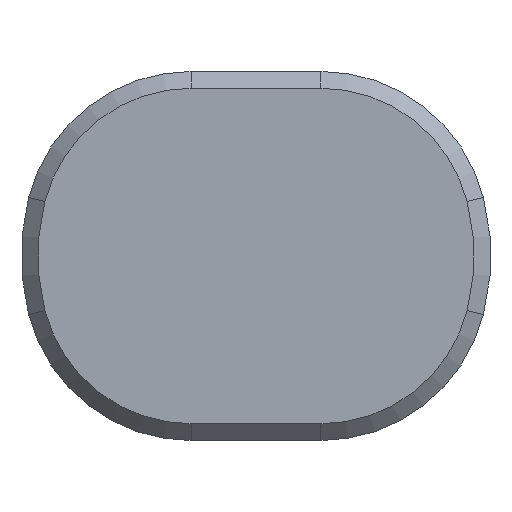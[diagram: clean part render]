
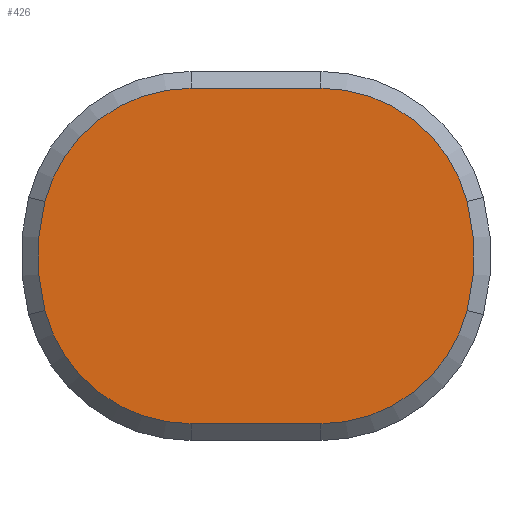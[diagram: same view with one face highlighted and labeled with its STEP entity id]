
A CAD part, left-side view. The second image highlights one B-rep face of the part: STEP entity #426.
In plain terms, the highlighted planar face has unit normal (-1, 0, 0).
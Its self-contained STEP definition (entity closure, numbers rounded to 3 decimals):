
#41=CIRCLE('',#470,4.5);
#42=CIRCLE('',#471,6.5);
#43=CIRCLE('',#472,4.5);
#44=CIRCLE('',#473,4.5);
#45=CIRCLE('',#474,6.5);
#46=CIRCLE('',#475,4.5);
#69=ORIENTED_EDGE('',*,*,#189,.T.);
#70=ORIENTED_EDGE('',*,*,#190,.T.);
#71=ORIENTED_EDGE('',*,*,#191,.F.);
#72=ORIENTED_EDGE('',*,*,#192,.T.);
#73=ORIENTED_EDGE('',*,*,#193,.T.);
#74=ORIENTED_EDGE('',*,*,#194,.T.);
#75=ORIENTED_EDGE('',*,*,#195,.F.);
#76=ORIENTED_EDGE('',*,*,#196,.T.);
#189=EDGE_CURVE('',#249,#250,#285,.T.);
#190=EDGE_CURVE('',#250,#251,#41,.F.);
#191=EDGE_CURVE('',#252,#251,#42,.T.);
#192=EDGE_CURVE('',#252,#253,#43,.F.);
#193=EDGE_CURVE('',#253,#254,#286,.T.);
#194=EDGE_CURVE('',#254,#255,#44,.F.);
#195=EDGE_CURVE('',#256,#255,#45,.T.);
#196=EDGE_CURVE('',#256,#249,#46,.F.);
#249=VERTEX_POINT('',#680);
#250=VERTEX_POINT('',#681);
#251=VERTEX_POINT('',#683);
#252=VERTEX_POINT('',#685);
#253=VERTEX_POINT('',#687);
#254=VERTEX_POINT('',#689);
#255=VERTEX_POINT('',#691);
#256=VERTEX_POINT('',#693);
#285=LINE('',#679,#317);
#286=LINE('',#688,#318);
#317=VECTOR('',#531,1000.);
#318=VECTOR('',#538,1000.);
#349=EDGE_LOOP('',(#69,#70,#71,#72,#73,#74,#75,#76));
#383=FACE_BOUND('',#349,.T.);
#417=PLANE('',#469);
#426=ADVANCED_FACE('',(#383),#417,.F.);
#469=AXIS2_PLACEMENT_3D('',#678,#529,#530);
#470=AXIS2_PLACEMENT_3D('',#682,#532,#533);
#471=AXIS2_PLACEMENT_3D('',#684,#534,#535);
#472=AXIS2_PLACEMENT_3D('',#686,#536,#537);
#473=AXIS2_PLACEMENT_3D('',#690,#539,#540);
#474=AXIS2_PLACEMENT_3D('',#692,#541,#542);
#475=AXIS2_PLACEMENT_3D('',#694,#543,#544);
#529=DIRECTION('',(1.,0.,0.));
#530=DIRECTION('',(0.,0.,-1.));
#531=DIRECTION('',(0.,-1.,0.));
#532=DIRECTION('',(1.,0.,0.));
#533=DIRECTION('',(0.,0.,-1.));
#534=DIRECTION('',(1.,0.,0.));
#535=DIRECTION('',(0.,0.,-1.));
#536=DIRECTION('',(1.,0.,0.));
#537=DIRECTION('',(0.,0.,-1.));
#538=DIRECTION('',(0.,1.,0.));
#539=DIRECTION('',(1.,0.,0.));
#540=DIRECTION('',(0.,0.,-1.));
#541=DIRECTION('',(1.,0.,0.));
#542=DIRECTION('',(0.,0.,-1.));
#543=DIRECTION('',(1.,0.,0.));
#544=DIRECTION('',(0.,0.,-1.));
#678=CARTESIAN_POINT('',(-6.,0.,0.));
#679=CARTESIAN_POINT('',(-6.,-1.936,-5.));
#680=CARTESIAN_POINT('',(-6.,1.936,-5.));
#681=CARTESIAN_POINT('',(-6.,-1.936,-5.));
#682=CARTESIAN_POINT('',(-6.,-1.936,-0.5));
#683=CARTESIAN_POINT('',(-6.,-6.294,-1.625));
#684=CARTESIAN_POINT('',(-6.,0.,0.));
#685=CARTESIAN_POINT('',(-6.,-6.294,1.625));
#686=CARTESIAN_POINT('',(-6.,-1.936,0.5));
#687=CARTESIAN_POINT('',(-6.,-1.936,5.));
#688=CARTESIAN_POINT('',(-6.,1.936,5.));
#689=CARTESIAN_POINT('',(-6.,1.936,5.));
#690=CARTESIAN_POINT('',(-6.,1.936,0.5));
#691=CARTESIAN_POINT('',(-6.,6.294,1.625));
#692=CARTESIAN_POINT('',(-6.,0.,0.));
#693=CARTESIAN_POINT('',(-6.,6.294,-1.625));
#694=CARTESIAN_POINT('',(-6.,1.936,-0.5));
